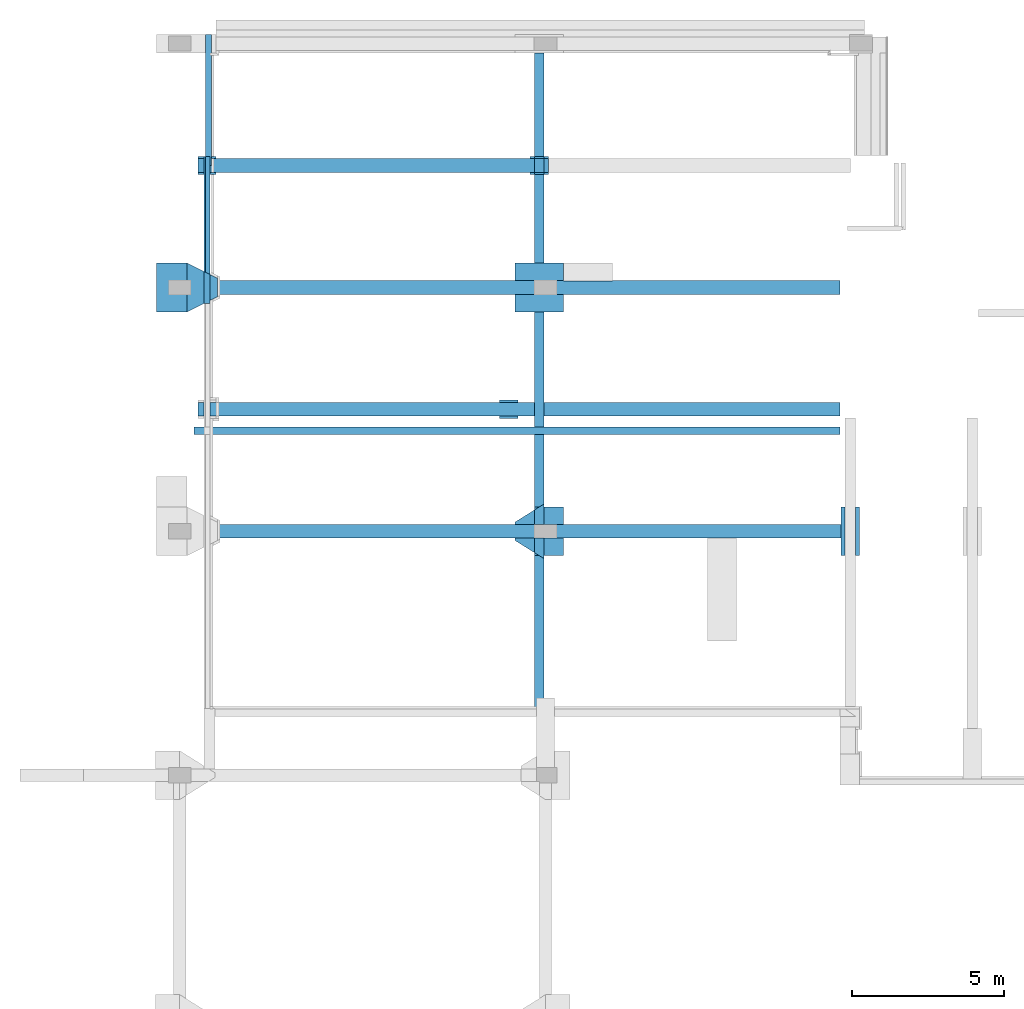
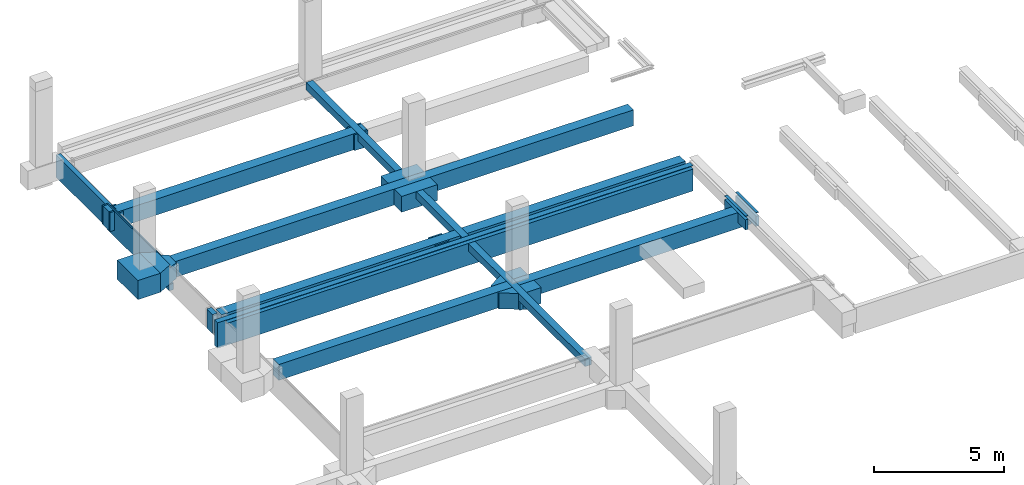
# One storey, part 3 of 17: 18 beams.
"""IFC2X3 building model written with IfcOpenShell, lengths in millimetres."""

from ifc_helpers import new_model, entity, si_unit, converted_unit, derived_unit, money_unit, direction, frame, origin_with_axes, place, context, subcontext, project, spatial, faceted_brep, material, type_object, element, save


model = new_model("IFC2X3")

# Units and contexts
model_context = context("Model", 3, precision=0.01, world=origin_with_axes(), true_north=direction((0.0, 1.0)))
body_context = subcontext(model_context, "Body", "Model", "MODEL_VIEW")
ifc_project = project(units=[si_unit("LENGTHUNIT", "METRE", prefix="MILLI"), si_unit("AREAUNIT", "SQUARE_METRE"), si_unit("VOLUMEUNIT", "CUBIC_METRE"), converted_unit("PLANEANGLEUNIT", "DEGREE", entity("IfcPlaneAngleMeasure", 0.0174532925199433), si_unit("PLANEANGLEUNIT", "RADIAN"), dimensions=[0, 0, 0, 0, 0, 0, 0]), money_unit("EUR"), converted_unit("TIMEUNIT", "Year", entity("IfcTimeMeasure", 31557600.0), si_unit("TIMEUNIT", "SECOND"), dimensions=[0, 0, 1, 0, 0, 0, 0]), si_unit("MASSUNIT", "GRAM", prefix="KILO"), si_unit("THERMODYNAMICTEMPERATUREUNIT", "DEGREE_CELSIUS"), si_unit("LUMINOUSINTENSITYUNIT", "LUMEN"), si_unit("ENERGYUNIT", "JOULE", prefix="MEGA"), derived_unit("THERMALCONDUCTANCEUNIT", [(si_unit("POWERUNIT", "WATT"), 1), (si_unit("LENGTHUNIT", "METRE"), -1), (si_unit("THERMODYNAMICTEMPERATUREUNIT", "KELVIN"), -1)]), derived_unit("SPECIFICHEATCAPACITYUNIT", [(si_unit("ENERGYUNIT", "JOULE"), 1), (si_unit("MASSUNIT", "GRAM", prefix="KILO"), -1), (si_unit("THERMODYNAMICTEMPERATUREUNIT", "KELVIN"), -1)]), derived_unit("MASSDENSITYUNIT", [(si_unit("MASSUNIT", "GRAM", prefix="KILO"), 1), (si_unit("VOLUMEUNIT", "CUBIC_METRE"), -1)])], contexts=[model_context])

# Site, building, storey
site_placement = place(None, origin_with_axes())
site = spatial("IfcSite", under=ifc_project, at=site_placement, Name="<site naam>", CompositionType="ELEMENT")
building_placement = place(site_placement, origin_with_axes())
building = spatial("IfcBuilding", under=site, at=building_placement, Name="<Naam gebouw>", CompositionType="ELEMENT")
storey_placement = place(building_placement, frame((0.0, 0.0, -1100.0), z_axis=(0.0, 0.0, 1.0), x_axis=(1.0, 0.0, 0.0)))
storey = spatial("IfcBuildingStorey", under=building, at=storey_placement, Name="-1 Fundering", CompositionType="ELEMENT", Elevation=-1100.0)

# Beams
ifc_material = material(Name="beton_gewapend C")
beam_type_1 = type_object("IfcBeamType", Name="beton_gewapend C 600 x 650", PredefinedType="BEAM")
beam_1_placement = place(storey_placement, frame((12000.00000000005, 8800.000000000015, 1070.0), z_axis=(0.0, 0.0, 1.0), x_axis=(-1.0, 0.0, 0.0)))
element("IfcBeam", 1, at=beam_1_placement, inside=storey, type_object=beam_type_1, material=ifc_material, Name="28_Balk_beton_gewapend", ObjectType="BEAM", context=body_context, shape_type="Brep", body=[
    faceted_brep([(300.0000000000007, 0.0, -650.0000000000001), (300.0000000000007, 0.0, -170.0), (174.9999999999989, 0.0, -170.0), (175.0000000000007, 0.0, -650.0000000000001), (300.0000000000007, 1599.999999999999, -650.0000000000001), (299.9999999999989, 1599.999999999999, -170.0), (174.9999999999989, 1599.999999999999, -170.0), (175.0000000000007, 1600.0, -650.0000000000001)], [[[0, 1, 2, 3]], [[4, 5, 1, 0]], [[5, 6, 2, 1]], [[3, 2, 6, 7]], [[7, 4, 0, 3]], [[7, 6, 5, 4]]]),
    faceted_brep([(-175.0000000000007, 0.0, -650.0000000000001), (-175.0000000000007, 0.0, -170.0), (-300.0000000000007, 0.0, -170.0), (-300.0000000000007, 0.0, -650.0000000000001), (-175.0000000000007, 1599.999999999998, -650.0000000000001), (-175.0000000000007, 1599.999999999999, -170.0), (-300.0000000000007, 1599.999999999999, -170.0), (-300.0000000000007, 1599.999999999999, -650.0000000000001)], [[[0, 1, 2, 3]], [[4, 5, 1, 0]], [[5, 6, 2, 1]], [[3, 2, 6, 7]], [[0, 3, 7, 4]], [[7, 6, 5, 4]]]),
    faceted_brep([(174.9999999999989, 1599.999999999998, 0.0), (174.9999999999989, 1599.999999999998, -20.00000000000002), (174.9999999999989, 0.0, -20.00000000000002), (174.9999999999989, 0.0, 0.0), (299.9999999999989, 1599.999999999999, 0.0), (299.9999999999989, 1599.999999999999, -20.00000000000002), (300.0000000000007, 0.0, -20.00000000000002), (300.0000000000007, 0.0, 0.0)], [[[0, 1, 2, 3]], [[4, 5, 1, 0]], [[5, 6, 2, 1]], [[3, 2, 6, 7]], [[3, 7, 4, 0]], [[7, 6, 5, 4]]]),
    faceted_brep([(-300.0000000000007, 1599.999999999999, 0.0), (-300.0000000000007, 1599.999999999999, -20.00000000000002), (-300.0000000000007, 0.0, -20.00000000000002), (-300.0000000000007, 0.0, 0.0), (-175.0000000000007, 1599.999999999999, 0.0), (-175.0000000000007, 1599.999999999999, -20.00000000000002), (-175.0000000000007, 0.0, -20.00000000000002), (-175.0000000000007, 0.0, 0.0)], [[[0, 1, 2, 3]], [[4, 5, 1, 0]], [[5, 6, 2, 1]], [[3, 2, 6, 7]], [[4, 0, 3, 7]], [[7, 6, 5, 4]]]),
])
beam_type_2 = type_object("IfcBeamType", Name="beton_gewapend C 200 x 1200", PredefinedType="BEAM")
beam_2_placement = place(storey_placement, frame((-9154.999999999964, 24300.00000000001, 1050.0), z_axis=(0.0, 0.0, 1.0), x_axis=(-1.0, 0.0, 0.0)))
element("IfcBeam", 2, at=beam_2_placement, inside=storey, type_object=beam_type_2, material=ifc_material, Name="28_Balk_beton_gewapend", ObjectType="BEAM", context=body_context, shape_type="Brep", body=[
    faceted_brep([(0.0, 0.0, -1200.0), (0.0, 0.0, -149.9999999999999), (-200.0000000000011, 0.0, -149.9999999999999), (-200.0000000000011, 0.0, -1200.0), (0.0, 3999.999999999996, -1200.0), (0.0, 3999.999999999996, -149.9999999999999), (-155.0000006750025, 4306.017629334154, -149.9999999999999), (-199.9999999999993, 4306.017629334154, -149.9999999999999), (-155.0000006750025, 3999.999999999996, -149.9999999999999), (-199.9999999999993, 4306.017629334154, -1200.0), (-155.0000006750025, 4306.017629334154, -1200.0), (-155.0000006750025, 3999.999999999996, -1200.0)], [[[0, 1, 2, 3]], [[4, 5, 1, 0]], [[6, 7, 2, 1, 5, 8]], [[3, 2, 7, 9]], [[9, 10, 11, 4, 0, 3]], [[11, 8, 5, 4]], [[9, 7, 6, 10]], [[10, 6, 8, 11]]]),
])
beam_3_placement = place(storey_placement, frame((-9199.999999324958, 20300.00000000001, 1050.0), z_axis=(0.0, 0.0, 1.0), x_axis=(-1.0, 0.0, 0.0)))
element("IfcBeam", 3, at=beam_3_placement, inside=storey, type_object=beam_type_2, material=ifc_material, Name="28_Balk_beton_gewapend", ObjectType="BEAM", context=body_context, shape_type="Brep", body=[
    faceted_brep([(0.0, 0.0, 0.0), (-44.99999932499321, 0.0, 0.0), (-44.99999932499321, 0.0, -150.0), (-199.9999999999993, 0.0, -150.0), (-199.9999999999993, 0.0, -1200.0), (0.0, 0.0, -1200.0), (0.0, 3779.541246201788, 0.0), (-44.99999932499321, 3802.041245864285, 0.0), (-44.99999932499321, 3802.041245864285, -150.0), (-199.9999999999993, 3879.541246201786, -150.0), (-199.9999999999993, 3879.541246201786, -900.0), (-199.9999999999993, 4524.999995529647, -900.0), (-199.9999999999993, 4820.458753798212, -900.0), (-200.0000000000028, 4820.458753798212, -1200.0), (0.0, 4820.458753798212, -1200.0), (0.0, 4820.458753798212, -900.0), (0.0, 4524.999995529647, -900.0), (0.0, 3779.541246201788, -900.0)], [[[0, 1, 2, 3, 4, 5]], [[6, 7, 1, 0]], [[8, 2, 1, 7]], [[8, 9, 3, 2]], [[4, 3, 9, 10, 11, 12, 13]], [[4, 13, 14, 5]], [[14, 15, 16, 17, 6, 0, 5]], [[9, 8, 7, 6, 17, 10]], [[10, 17, 16, 11]], [[16, 15, 12, 11]], [[12, 15, 14, 13]]]),
])
beam_type_3 = type_object("IfcBeamType", Name="beton_gewapend C 450 x 900", PredefinedType="BEAM")
beam_4_placement = place(storey_placement, frame((-9404.082491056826, 8000.000000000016, 1050.0), z_axis=(0.0, 0.0, 1.0), x_axis=(0.0, -1.0, 0.0)))
element("IfcBeam", 4, at=beam_4_placement, inside=storey, type_object=beam_type_3, material=ifc_material, Name="28_Balk_beton_gewapend", ObjectType="BEAM", context=body_context, shape_type="Brep", body=[
    faceted_brep([(-225.0000000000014, 11349.99999878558, -500.0000000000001), (-224.9999999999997, 11349.99999878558, -150.0), (-224.9999999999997, 21104.08249105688, -150.0), (-225.0000000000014, 21104.08249105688, -630.0000000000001), (-224.9999999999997, 21579.0824888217, -630.0000000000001), (-224.9999999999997, 21704.08249105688, -630.0000000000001), (-225.0000000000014, 21704.08249105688, -900.0), (-224.9999999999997, 644.9999993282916, -900.0), (-224.9999999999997, 644.9999993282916, -150.0), (-224.9999999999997, 11049.99999878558, -150.0), (-225.0000000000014, 11049.99999878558, -500.0000000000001), (224.9999999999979, 11349.99999878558, -500.0000000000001), (224.9999999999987, 11349.99999878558, -150.0), (224.9999999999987, 21104.08249105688, -150.0), (224.9999999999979, 21104.08249105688, -630.0000000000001), (224.9999999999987, 21579.0824888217, -630.0000000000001), (224.9999999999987, 21704.08249105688, -630.0000000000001), (224.9999999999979, 21704.08249105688, -900.0), (224.9999999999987, 644.9999993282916, -900.0), (224.9999999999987, 644.9999993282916, -150.0), (224.9999999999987, 11049.99999878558, -150.0), (224.9999999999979, 11049.99999878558, -500.0000000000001)], [[[0, 1, 2, 3, 4, 5, 6, 7, 8, 9, 10]], [[11, 12, 1, 0]], [[12, 13, 2, 1]], [[3, 2, 13, 14]], [[4, 3, 14, 15]], [[15, 16, 5, 4]], [[16, 17, 6, 5]], [[18, 7, 6, 17]], [[18, 19, 8, 7]], [[19, 20, 9, 8]], [[10, 9, 20, 21]], [[11, 0, 10, 21]], [[14, 13, 12, 11, 21, 20, 19, 18, 17, 16, 15]]]),
])
beam_5_placement = place(storey_placement, frame((-9404.082491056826, 12000.00000000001, 1050.0), z_axis=(0.0, 0.0, 1.0), x_axis=(0.0, -1.0, 0.0)))
element("IfcBeam", 5, at=beam_5_placement, inside=storey, type_object=beam_type_3, material=ifc_material, Name="28_Balk_beton_gewapend", ObjectType="BEAM", context=body_context, shape_type="Brep", body=[
    faceted_brep([(-225.0000000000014, 11349.99999878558, -500.0000000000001), (-225.0000000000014, 11349.99999878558, -150.0), (-225.0000000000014, 21069.08249105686, -150.0), (-225.0000000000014, 21069.08249105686, -900.0), (-224.9999999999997, 404.0824917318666, -900.0), (-224.9999999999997, 404.0824917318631, -150.0), (-225.0000000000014, 11049.99999878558, -150.0), (-225.0000000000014, 11049.99999878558, -500.0000000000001), (224.9999999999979, 11349.99999878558, -500.0000000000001), (224.9999999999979, 11349.99999878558, -150.0), (224.9999999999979, 21069.08249105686, -150.0), (224.9999999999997, 21069.08249105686, -900.0), (224.9999999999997, 404.0824917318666, -900.0), (224.9999999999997, 404.0824917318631, -150.0), (224.9999999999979, 11049.99999878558, -150.0), (224.9999999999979, 11049.99999878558, -500.0000000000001)], [[[0, 1, 2, 3, 4, 5, 6, 7]], [[8, 9, 1, 0]], [[9, 10, 2, 1]], [[3, 2, 10, 11]], [[4, 3, 11, 12]], [[12, 13, 5, 4]], [[13, 14, 6, 5]], [[7, 6, 14, 15]], [[15, 8, 0, 7]], [[11, 10, 9, 8, 15, 14, 13, 12]]]),
    faceted_brep([(224.9999999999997, 0.0, 0.0), (224.9999999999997, 204.0824917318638, 0.0), (-225.0000000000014, 204.0824917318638, 0.0), (-224.9999999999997, 0.0, 0.0), (224.9999999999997, 0.0, -900.0), (224.9999999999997, 204.0824917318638, -900.0), (-224.9999999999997, 204.0824917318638, -900.0), (-224.9999999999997, 0.0, -900.0)], [[[0, 1, 2, 3]], [[4, 5, 1, 0]], [[5, 6, 2, 1]], [[3, 2, 6, 7]], [[0, 3, 7, 4]], [[7, 6, 5, 4]]]),
])
beam_6_placement = place(storey_placement, frame((-9404.082491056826, 20000.00000000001, 1050.0), z_axis=(0.0, 0.0, 1.0), x_axis=(0.0, -1.0, 0.0)))
element("IfcBeam", 6, at=beam_6_placement, inside=storey, type_object=beam_type_3, material=ifc_material, Name="28_Balk_beton_gewapend", ObjectType="BEAM", context=body_context, shape_type="Brep", body=[
    faceted_brep([(-225.0000000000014, 11349.99999878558, -500.0000000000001), (-225.0000000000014, 11349.99999878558, -150.0), (-225.0000000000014, 11499.9999993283, -150.0), (-225.0000000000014, 11499.9999993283, -900.0), (-225.0000000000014, 449.0824910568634, -900.0), (-225.0000000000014, 449.0824910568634, -150.0), (-225.0000000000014, 11049.99999878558, -150.0), (-225.0000000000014, 11049.99999878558, -500.0000000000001), (224.9999999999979, 11349.99999878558, -500.0000000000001), (224.9999999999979, 11349.99999878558, -150.0), (224.9999999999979, 11499.9999993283, -150.0), (224.9999999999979, 11499.9999993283, -900.0), (225.0000000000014, 404.0824917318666, -900.0), (6.017629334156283, 404.0824917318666, -900.0), (6.017629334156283, 449.0824910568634, -900.0), (6.017629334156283, 449.0824910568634, -150.0), (225.0000000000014, 404.0824917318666, -150.0), (224.9999999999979, 11049.99999878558, -150.0), (6.017629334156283, 404.0824917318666, -150.0), (224.9999999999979, 11049.99999878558, -500.0000000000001)], [[[0, 1, 2, 3, 4, 5, 6, 7]], [[8, 9, 1, 0]], [[9, 10, 2, 1]], [[3, 2, 10, 11]], [[12, 13, 14, 4, 3, 11]], [[14, 15, 5, 4]], [[16, 17, 6, 5, 15, 18]], [[7, 6, 17, 19]], [[7, 19, 8, 0]], [[11, 10, 9, 8, 19, 17, 16, 12]], [[12, 16, 18, 13]], [[13, 18, 15, 14]]]),
    faceted_brep([(225.0000000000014, 0.0, 0.0), (225.0000000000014, 204.0824917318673, 0.0), (-225.0000000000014, 204.0824917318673, 0.0), (-225.0000000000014, 0.0, 0.0), (225.0000000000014, 0.0, -900.0), (225.0000000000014, 204.0824917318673, -900.0), (-225.0000000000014, 204.0824917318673, -900.0), (-225.0000000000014, 0.0, -900.0)], [[[0, 1, 2, 3]], [[4, 5, 1, 0]], [[5, 6, 2, 1]], [[3, 2, 6, 7]], [[0, 3, 7, 4]], [[7, 6, 5, 4]]]),
])
beam_7_placement = place(storey_placement, frame((-9404.082491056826, 16000.00000000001, 1050.0), z_axis=(0.0, 0.0, 1.0), x_axis=(0.0, -1.0, 0.0)))
element("IfcBeam", 7, at=beam_7_placement, inside=storey, type_object=beam_type_3, material=ifc_material, Name="28_Balk_beton_gewapend", ObjectType="BEAM", context=body_context, shape_type="Brep", body=[
    faceted_brep([(-225.0000000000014, 13599.99999932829, -900.0), (-225.0000000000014, 13599.99999932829, -150.0), (-225.0000000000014, 21069.08249105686, -150.0), (-225.0000000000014, 21069.08249105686, -900.0), (-219.9999999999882, 13599.99999932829, -900.0), (-219.9999999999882, 13599.99999932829, -150.0), (224.9999999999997, 644.9999993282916, -150.0), (224.9999999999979, 21069.08249105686, -150.0), (-219.9999999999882, 11999.9999993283, -150.0), (-225.0000000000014, 11999.9999993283, -150.0), (-225.0000000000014, 644.9999993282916, -150.0), (224.9999999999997, 21069.08249105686, -900.0), (224.9999999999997, 644.9999993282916, -900.0), (-225.0000000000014, 644.9999993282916, -900.0), (-225.0000000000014, 11999.9999993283, -900.0), (-219.9999999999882, 11999.9999993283, -900.0)], [[[0, 1, 2, 3]], [[4, 5, 1, 0]], [[6, 7, 2, 1, 5, 8, 9, 10]], [[3, 2, 7, 11]], [[3, 11, 12, 13, 14, 15, 4, 0]], [[15, 8, 5, 4]], [[11, 7, 6, 12]], [[14, 9, 8, 15]], [[13, 10, 9, 14]], [[12, 6, 10, 13]]]),
])
beam_type_4 = type_object("IfcBeamType", Name="beton_gewapend C 250 x 1200", PredefinedType="BEAM")
beam_8_placement = place(storey_placement, frame((-9534.54364677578, 11422.52189327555, 1070.0), z_axis=(0.0, 0.0, 1.0), x_axis=(0.0, -1.0, 0.0)))
element("IfcBeam", 8, at=beam_8_placement, inside=storey, type_object=beam_type_4, material=ifc_material, Name="28_Balk_beton_gewapend", ObjectType="BEAM", context=body_context, shape_type="Brep", body=[
    faceted_brep([(249.9999999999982, 21199.99999932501, 0.0), (249.9999999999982, 21199.99999932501, -20.00000000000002), (0.0, 21199.99999932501, -20.00000000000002), (0.0, 21199.99999932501, 0.0), (249.9999999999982, 379.5436467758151, -170.0), (249.9999999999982, 379.5436467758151, -20.00000000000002), (250.0, 0.0, 0.0), (250.0, 0.0, -1200.0), (249.9999999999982, 21199.99999932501, -1200.0), (249.9999999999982, 21199.99999932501, -169.9999999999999), (0.0, 379.5436467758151, -20.00000000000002), (0.0, 379.5436467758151, -170.0), (0.0, 21199.99999932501, -170.0), (0.0, 21199.99999932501, -1200.0), (0.0, 0.0, -1200.0), (0.0, 0.0, 0.0)], [[[0, 1, 2, 3]], [[4, 5, 1, 0, 6, 7, 8, 9]], [[5, 10, 2, 1]], [[10, 11, 12, 13, 14, 15, 3, 2]], [[15, 6, 0, 3]], [[4, 11, 10, 5]], [[6, 15, 14, 7]], [[7, 14, 13, 8]], [[13, 12, 9, 8]], [[4, 9, 12, 11]]]),
])
beam_type_5 = type_object("IfcBeamType", Name="beton_gewapend C 1600 x 900", PredefinedType="BEAM")
beam_9_placement = place(storey_placement, frame((995.9175082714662, 8000.000000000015, 1050.0), z_axis=(0.0, 0.0, 1.0), x_axis=(0.0, -1.0, 0.0)))
element("IfcBeam", 9, at=beam_9_placement, inside=storey, type_object=beam_type_5, material=ifc_material, Name="28_Balk_beton_gewapend", ObjectType="BEAM", context=body_context, shape_type="Brep", body=[
    faceted_brep([(224.999999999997, 0.0, -900.0), (224.999999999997, 0.0, -150.0), (224.999999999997, 649.9999994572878, -150.0), (224.9999999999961, 649.9999994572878, -500.0000000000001), (224.9999999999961, 949.9999994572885, -500.0000000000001), (224.9999999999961, 949.9999994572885, -900.0), (299.9999999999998, 0.0, -900.0000000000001), (299.9999999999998, 0.0, -149.9999999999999), (706.2499996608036, 649.9999994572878, -150.0), (706.2499996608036, 649.9999994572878, -500.0000000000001), (893.7499996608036, 949.9999994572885, -500.0000000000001), (893.7499996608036, 949.9999994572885, -900.0000000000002)], [[[0, 1, 2, 3, 4, 5]], [[6, 7, 1, 0]], [[7, 8, 2, 1]], [[3, 2, 8, 9]], [[3, 9, 10, 4]], [[4, 10, 11, 5]], [[5, 11, 6, 0]], [[9, 8, 7, 6, 11, 10]]]),
    faceted_brep([(-300.0000000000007, 0.0, -899.9999999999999), (-300.0000000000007, 0.0, -149.9999999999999), (-706.2499996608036, 649.9999994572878, -150.0), (-706.2499996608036, 649.9999994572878, -500.0000000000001), (-893.7499996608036, 949.999999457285, -500.0000000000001), (-893.7499996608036, 949.9999994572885, -899.9999999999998), (-225.0000000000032, 0.0, -900.0), (-225.0000000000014, 0.0, -150.0), (-225.0000000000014, 649.9999994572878, -150.0), (-225.0000000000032, 649.9999994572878, -500.0000000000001), (-225.0000000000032, 949.9999994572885, -500.0000000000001), (-225.0000000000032, 949.9999994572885, -900.0)], [[[0, 1, 2, 3, 4, 5]], [[6, 7, 1, 0]], [[7, 8, 2, 1]], [[3, 2, 8, 9]], [[10, 4, 3, 9]], [[11, 5, 4, 10]], [[6, 0, 5, 11]], [[9, 8, 7, 6, 11, 10]]]),
])
beam_10_placement = place(storey_placement, frame((1795.917508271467, 8000.000000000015, 1050.0), z_axis=(0.0, 0.0, 1.0), x_axis=(0.0, -1.0, 0.0)))
element("IfcBeam", 10, at=beam_10_placement, inside=storey, type_object=beam_type_5, material=ifc_material, Name="28_Balk_beton_gewapend", ObjectType="BEAM", context=body_context, shape_type="Brep", body=[
    faceted_brep([(224.9999999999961, 149.9999994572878, -900.0), (224.999999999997, 149.9999994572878, -150.0), (224.999999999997, 800.0000000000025, -150.0), (224.9999999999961, 799.999999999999, -900.0), (799.999999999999, 149.9999994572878, -900.0000000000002), (799.9999999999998, 149.9999994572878, -150.0), (799.9999999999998, 800.0000000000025, -149.9999999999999), (799.9999999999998, 800.0000000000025, -900.0000000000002)], [[[0, 1, 2, 3]], [[4, 5, 1, 0]], [[5, 6, 2, 1]], [[3, 2, 6, 7]], [[3, 7, 4, 0]], [[7, 6, 5, 4]]]),
    faceted_brep([(-800.0000000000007, 149.9999994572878, -899.9999999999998), (-800.0000000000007, 149.9999994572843, -149.9999999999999), (-800.0000000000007, 800.0000000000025, -150.0), (-800.0000000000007, 800.0000000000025, -899.9999999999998), (-225.0000000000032, 149.9999994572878, -900.0), (-225.0000000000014, 149.9999994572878, -150.0), (-225.0000000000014, 800.0000000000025, -150.0), (-225.0000000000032, 800.0000000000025, -900.0)], [[[0, 1, 2, 3]], [[4, 5, 1, 0]], [[5, 6, 2, 1]], [[3, 2, 6, 7]], [[4, 0, 3, 7]], [[7, 6, 5, 4]]]),
    faceted_brep([(799.9999999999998, -150.000000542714, -900.0000000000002), (799.9999999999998, 0.0, -900.0000000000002), (799.9999999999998, 0.0, -500.0000000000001), (799.9999999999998, -150.0000005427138, -500.0000000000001), (706.2499996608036, -150.0000005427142, -900.0000000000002), (706.2499996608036, -150.0000005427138, -500.0000000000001)], [[[0, 1, 2, 3]], [[0, 4, 1]], [[4, 5, 2, 1]], [[3, 2, 5]], [[3, 5, 4, 0]]]),
    faceted_brep([(-800.0000000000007, -150.0000005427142, -500.0000000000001), (-706.2499996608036, -150.000000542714, -500.0000000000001), (-800.0000000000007, 0.0, -500.0000000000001), (-800.0000000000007, -150.000000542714, -899.9999999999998), (-706.2499996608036, -150.0000005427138, -899.9999999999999), (-800.0000000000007, 0.0, -899.9999999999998)], [[[0, 1, 2]], [[3, 4, 1, 0]], [[4, 5, 2, 1]], [[0, 2, 5, 3]], [[3, 5, 4]]]),
])
beam_11_placement = place(storey_placement, frame((-9759.082491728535, 16000.00000000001, 1050.0), z_axis=(0.0, 0.0, 1.0), x_axis=(0.0, 1.0, 0.0)))
element("IfcBeam", 11, at=beam_11_placement, inside=storey, type_object=beam_type_5, material=ifc_material, Name="28_Balk_beton_gewapend", ObjectType="BEAM", context=body_context, shape_type="Brep", body=[
    faceted_brep([(-800.0000000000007, 0.0, -900.0), (-800.0000000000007, 1000.0, -900.0), (800.0000000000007, 1000.0, -900.0), (800.0000000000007, 0.0, -900.0), (-800.0000000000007, 0.0, 0.0), (-800.0000000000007, 1000.0, 0.0), (800.0000000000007, 1000.0, 0.0), (800.0000000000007, 0.0, 0.0)], [[[0, 1, 2, 3]], [[4, 5, 1, 0]], [[2, 1, 5, 6]], [[3, 2, 6, 7]], [[4, 0, 3, 7]], [[7, 6, 5, 4]]]),
])
beam_12_placement = place(storey_placement, frame((-8759.082491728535, 16000.00000000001, 1050.0), z_axis=(0.0, 0.0, 1.0), x_axis=(0.0, 1.0, 0.0)))
element("IfcBeam", 12, at=beam_12_placement, inside=storey, type_object=beam_type_5, material=ifc_material, Name="28_Balk_beton_gewapend", ObjectType="BEAM", context=body_context, shape_type="Brep", body=[
    faceted_brep([(800.0000000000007, 1000.0, 0.0), (497.9587541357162, 395.917508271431, 0.0), (497.9587541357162, 395.917508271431, -150.0), (300.0000000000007, 0.0, -150.0), (300.0000000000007, 0.0, -900.0), (800.0000000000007, 1000.0, -900.0), (-800.0000000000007, 1000.0, 0.0), (-497.9587541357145, 395.917508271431, 0.0), (-497.9587541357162, 395.917508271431, -150.0), (-300.0000000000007, 0.0, -150.0), (-300.0000000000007, 0.0, -900.0), (-800.0000000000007, 1000.0, -900.0)], [[[0, 1, 2, 3, 4, 5]], [[6, 7, 1, 0]], [[8, 2, 1, 7]], [[8, 9, 3, 2]], [[4, 3, 9, 10]], [[10, 11, 5, 4]], [[11, 6, 0, 5]], [[9, 8, 7, 6, 11, 10]]]),
])
beam_13_placement = place(storey_placement, frame((2595.917508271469, 16000.0, 1050.0), z_axis=(0.0, 0.0, 1.0), x_axis=(0.0, 1.0, 0.0)))
element("IfcBeam", 13, at=beam_13_placement, inside=storey, type_object=beam_type_5, material=ifc_material, Name="28_Balk_beton_gewapend", ObjectType="BEAM", context=body_context, shape_type="Brep", body=[
    faceted_brep([(-224.9999999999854, 1600.000000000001, -900.0), (-224.9999999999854, 1600.000000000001, -150.0), (-224.9999999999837, 0.0, -150.0), (-224.9999999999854, 0.0, -900.0), (-800.0000000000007, 1600.000000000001, -900.0), (-800.0000000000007, 1600.000000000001, -150.0), (-800.0000000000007, 0.0, -150.0), (-800.0000000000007, 0.0, -900.0)], [[[0, 1, 2, 3]], [[4, 5, 1, 0]], [[5, 6, 2, 1]], [[3, 2, 6, 7]], [[3, 7, 4, 0]], [[7, 6, 5, 4]]]),
    faceted_brep([(800.0000000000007, 1600.000000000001, -900.0), (800.0000000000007, 1600.000000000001, -150.0), (800.0000000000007, 0.0, -150.0), (800.0000000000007, 0.0, -900.0), (225.0000000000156, 1600.000000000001, -900.0), (225.0000000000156, 1600.000000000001, -150.0), (225.0000000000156, 0.0, -150.0), (225.0000000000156, 0.0, -900.0)], [[[0, 1, 2, 3]], [[4, 5, 1, 0]], [[5, 6, 2, 1]], [[3, 2, 6, 7]], [[4, 0, 3, 7]], [[7, 6, 5, 4]]]),
])
beam_type_6 = type_object("IfcBeamType", Name="beton_gewapend C 600 x 900", PredefinedType="BEAM")
beam_14_placement = place(storey_placement, frame((2095.917508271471, 20000.0, 1050.0), z_axis=(0.0, 0.0, 1.0), x_axis=(0.0, 1.0, 0.0)))
element("IfcBeam", 14, at=beam_14_placement, inside=storey, type_object=beam_type_6, material=ifc_material, Name="28_Balk_beton_gewapend", ObjectType="BEAM", context=body_context, shape_type="Brep", body=[
    faceted_brep([(-224.9999999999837, 150.00000054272, -500.0000000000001), (-224.9999999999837, 150.00000054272, -150.0), (-224.9999999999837, 0.0, -150.0), (-224.9999999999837, 0.0, -900.0), (-224.9999999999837, 599.9999999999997, -900.0), (-224.9999999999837, 599.9999999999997, -150.0), (-224.9999999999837, 450.0000005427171, -150.0), (-224.9999999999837, 450.0000005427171, -500.0000000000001), (-300.0000000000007, 150.00000054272, -500.0000000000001), (-300.0000000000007, 150.00000054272, -150.0), (-300.0000000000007, 0.0, -150.0), (-300.0000000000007, 0.0, -900.0), (-300.0000000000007, 599.9999999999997, -900.0), (-300.0000000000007, 599.9999999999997, -150.0), (-300.0000000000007, 450.0000005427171, -150.0), (-300.0000000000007, 450.0000005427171, -500.0000000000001)], [[[0, 1, 2, 3, 4, 5, 6, 7]], [[8, 9, 1, 0]], [[9, 10, 2, 1]], [[3, 2, 10, 11]], [[11, 12, 4, 3]], [[12, 13, 5, 4]], [[13, 14, 6, 5]], [[7, 6, 14, 15]], [[15, 8, 0, 7]], [[11, 10, 9, 8, 15, 14, 13, 12]]]),
    faceted_brep([(300.0000000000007, 150.00000054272, -500.0000000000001), (300.0000000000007, 150.00000054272, -150.0), (300.0000000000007, 0.0, -150.0), (300.0000000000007, 0.0, -900.0), (300.0000000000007, 599.9999999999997, -900.0), (300.0000000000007, 599.9999999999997, -150.0), (300.0000000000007, 450.0000005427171, -150.0), (300.0000000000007, 450.0000005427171, -500.0000000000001), (225.0000000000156, 150.00000054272, -500.0000000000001), (225.0000000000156, 150.00000054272, -150.0), (225.0000000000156, 0.0, -150.0), (225.0000000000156, 0.0, -900.0), (225.0000000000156, 599.9999999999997, -900.0), (225.0000000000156, 599.9999999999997, -150.0), (225.0000000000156, 450.0000005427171, -150.0), (225.0000000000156, 450.0000005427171, -500.0000000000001)], [[[0, 1, 2, 3, 4, 5, 6, 7]], [[8, 9, 1, 0]], [[9, 10, 2, 1]], [[3, 2, 10, 11]], [[4, 3, 11, 12]], [[12, 13, 5, 4]], [[13, 14, 6, 5]], [[7, 6, 14, 15]], [[0, 7, 15, 8]], [[11, 10, 9, 8, 15, 14, 13, 12]]]),
])
beam_15_placement = place(storey_placement, frame((1095.917507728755, 12000.00000000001, 1050.0), z_axis=(0.0, 0.0, 1.0), x_axis=(0.0, 1.0, 0.0)))
element("IfcBeam", 15, at=beam_15_placement, inside=storey, type_object=beam_type_6, material=ifc_material, Name="28_Balk_beton_gewapend", ObjectType="BEAM", context=body_context, shape_type="Brep", body=[
    faceted_brep([(-224.9999999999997, 599.9999999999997, -900.0), (-224.9999999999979, 599.9999999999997, -150.0), (-224.9999999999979, 0.0, -150.0), (-224.9999999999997, 0.0, -900.0), (-300.0000000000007, 599.9999999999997, -900.0), (-300.0000000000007, 599.9999999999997, -150.0), (-300.0000000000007, 0.0, -150.0), (-300.0000000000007, 0.0, -900.0)], [[[0, 1, 2, 3]], [[4, 5, 1, 0]], [[5, 6, 2, 1]], [[3, 2, 6, 7]], [[3, 7, 4, 0]], [[7, 6, 5, 4]]]),
    faceted_brep([(300.0000000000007, 599.9999999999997, -900.0), (300.0000000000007, 599.9999999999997, -150.0), (300.0000000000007, 0.0, -150.0), (300.0000000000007, 0.0, -900.0), (225.0000000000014, 599.9999999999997, -900.0), (225.0000000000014, 599.9999999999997, -150.0), (225.0000000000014, 0.0, -150.0), (225.0000000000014, 0.0, -900.0)], [[[0, 1, 2, 3]], [[4, 5, 1, 0]], [[5, 6, 2, 1]], [[3, 2, 6, 7]], [[4, 0, 3, 7]], [[7, 6, 5, 4]]]),
])
beam_16_placement = place(storey_placement, frame((-8804.082491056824, 20000.00000000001, 1050.0), z_axis=(0.0, 0.0, 1.0), x_axis=(0.0, 1.0, 0.0)))
element("IfcBeam", 16, at=beam_16_placement, inside=storey, type_object=beam_type_6, material=ifc_material, Name="28_Balk_beton_gewapend", ObjectType="BEAM", context=body_context, shape_type="Brep", body=[
    faceted_brep([(-225.0000000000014, 195.9175082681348, -900.0), (-225.0000000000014, 195.9175082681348, -150.0), (-225.0000000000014, 0.0, -150.0), (-225.0000000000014, 0.0, -900.0), (-300.0000000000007, 195.9175082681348, -900.0), (-300.0000000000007, 195.9175082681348, -150.0), (-300.0000000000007, 0.0, -150.0), (-300.0000000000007, 0.0, -900.0)], [[[0, 1, 2, 3]], [[4, 5, 1, 0]], [[5, 6, 2, 1]], [[3, 2, 6, 7]], [[7, 4, 0, 3]], [[7, 6, 5, 4]]]),
    faceted_brep([(300.0000000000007, 150.917508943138, -900.0), (300.0000000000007, 150.917508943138, -150.0), (300.0000000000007, 0.0, -150.0), (300.0000000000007, 0.0, -900.0), (225.0000000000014, 150.917508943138, -900.0), (225.0000000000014, 150.917508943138, -150.0), (225.0000000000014, 0.0, -150.0), (225.0000000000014, 0.0, -900.0)], [[[0, 1, 2, 3]], [[4, 5, 1, 0]], [[5, 6, 2, 1]], [[3, 2, 6, 7]], [[0, 3, 7, 4]], [[7, 6, 5, 4]]]),
    faceted_brep([(-300.0000000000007, 395.9175082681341, -900.0), (-225.0000000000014, 395.9175082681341, -900.0), (-225.0000000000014, 395.9175082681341, 0.0), (-300.0000000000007, 395.9175082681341, 0.0), (-300.0000000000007, 600.0000000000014, -900.0), (-225.0000000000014, 600.0000000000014, -900.0), (-225.0000000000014, 600.0000000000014, 0.0), (-300.0000000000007, 600.0000000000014, 0.0)], [[[0, 1, 2, 3]], [[4, 5, 1, 0]], [[5, 6, 2, 1]], [[3, 2, 6, 7]], [[7, 4, 0, 3]], [[7, 6, 5, 4]]]),
    faceted_brep([(300.0000000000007, 600.0000000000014, 0.0), (225.0000000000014, 600.0000000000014, 0.0), (225.0000000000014, 395.9175082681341, 0.0), (300.0000000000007, 395.9175082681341, 0.0), (300.0000000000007, 600.0000000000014, -900.0), (225.0000000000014, 600.0000000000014, -900.0), (225.0000000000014, 395.9175082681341, -900.0), (300.0000000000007, 395.9175082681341, -900.0000000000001)], [[[0, 1, 2, 3]], [[4, 5, 1, 0]], [[5, 6, 2, 1]], [[3, 2, 6, 7]], [[4, 0, 3, 7]], [[7, 6, 5, 4]]]),
])
beam_type_7 = type_object("IfcBeamType", Name="beton_gewapend C 300 x 500", PredefinedType="BEAM")
beam_17_placement = place(storey_placement, frame((1795.917507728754, 2175.000000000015, 1050.0), z_axis=(0.0, 0.0, 1.0), x_axis=(1.0, 0.0, 0.0)))
element("IfcBeam", 17, at=beam_17_placement, inside=storey, type_object=beam_type_7, material=ifc_material, Name="28_Balk_beton_gewapend", ObjectType="BEAM", context=body_context, shape_type="Brep", body=[
    faceted_brep([(-149.9999999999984, 8997.52189327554, -500.0000000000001), (-150.0000000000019, 8997.52189327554, -150.0), (149.9999999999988, 8997.52189327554, -150.0), (149.9999999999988, 8997.52189327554, -500.0000000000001), (-150.0000000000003, 0.006562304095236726, -500.0000000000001), (-150.0000000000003, 0.006562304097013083, -150.0), (150.0000000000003, 0.006562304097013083, -150.0), (150.0000000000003, 0.006562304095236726, -500.0000000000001)], [[[0, 1, 2, 3]], [[4, 5, 1, 0]], [[5, 6, 2, 1]], [[3, 2, 6, 7]], [[0, 3, 7, 4]], [[7, 6, 5, 4]]]),
    faceted_brep([(-149.9999999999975, 13024.99999999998, -500.0000000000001), (-149.9999999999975, 13024.99999999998, -150.0), (149.9999999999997, 13024.99999999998, -150.0), (150.0000000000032, 13024.99999999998, -500.0000000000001), (-149.9999999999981, 9247.52189327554, -500.0000000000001), (-150.0000000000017, 9247.52189327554, -150.0), (149.999999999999, 9247.52189327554, -150.0), (149.999999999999, 9247.52189327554, -500.0000000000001)], [[[0, 1, 2, 3]], [[4, 5, 1, 0]], [[5, 6, 2, 1]], [[3, 2, 6, 7]], [[7, 4, 0, 3]], [[7, 6, 5, 4]]]),
])
beam_18_placement = place(storey_placement, frame((1795.917507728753, 16000.00000000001, 1050.0), z_axis=(0.0, 0.0, 1.0), x_axis=(1.0, 0.0, 0.0)))
element("IfcBeam", 18, at=beam_18_placement, inside=storey, type_object=beam_type_7, material=ifc_material, Name="28_Balk_beton_gewapend", ObjectType="BEAM", context=body_context, shape_type="Brep", body=[
    faceted_brep([(-149.9999999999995, 7700.000000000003, -500.0000000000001), (-149.9999999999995, 7700.000000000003, -150.0), (150.0000000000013, 7700.000000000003, -150.0), (150.0000000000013, 7700.000000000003, -500.0000000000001), (-149.9999999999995, 799.99999999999, -500.0000000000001), (-149.9999999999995, 799.99999999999, -150.0), (149.9999999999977, 799.99999999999, -150.0), (150.0000000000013, 799.99999999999, -500.0000000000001)], [[[0, 1, 2, 3]], [[4, 5, 1, 0]], [[5, 6, 2, 1]], [[3, 2, 6, 7]], [[7, 4, 0, 3]], [[7, 6, 5, 4]]]),
])

save(model, "model.ifc")
